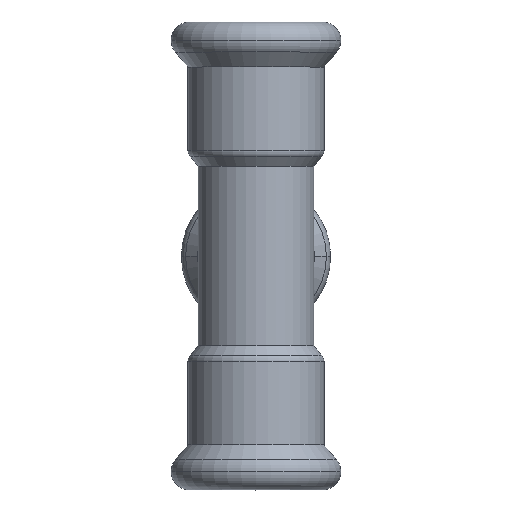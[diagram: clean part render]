
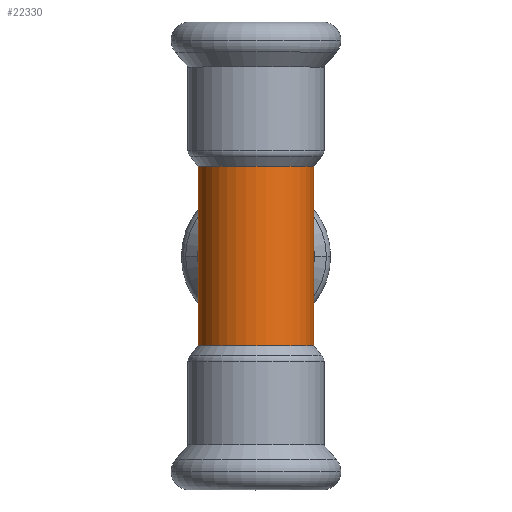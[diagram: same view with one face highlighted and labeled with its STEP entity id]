
A CAD part, top view. The second image highlights one B-rep face of the part: STEP entity #22330.
In plain terms, the highlighted cylindrical face has radius 9 mm (diameter 18 mm), a partial arc.
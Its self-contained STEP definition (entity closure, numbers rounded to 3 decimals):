
#670=CARTESIAN_POINT('',(-96.193,15.909,
14.));
#680=DIRECTION('',(0.,0.,1.));
#690=DIRECTION('',(-1.,0.,0.));
#700=AXIS2_PLACEMENT_3D('',#670,#680,#690);
#710=CYLINDRICAL_SURFACE('',#700,9.);
#16510=CARTESIAN_POINT('',(-87.193,15.909,
14.));
#16520=VERTEX_POINT('',#16510);
#16610=CARTESIAN_POINT('',(-105.193,15.909,
14.));
#16620=VERTEX_POINT('',#16610);
#16650=CARTESIAN_POINT('',(-96.193,15.909,
14.));
#16660=DIRECTION('',(0.,0.,1.));
#16670=DIRECTION('',(1.,0.,0.));
#16680=AXIS2_PLACEMENT_3D('',#16650,#16660,#16670);
#16690=CIRCLE('',#16680,9.);
#17170=CARTESIAN_POINT('',(-87.193,15.909,
14.));
#17180=DIRECTION('',(0.,0.,1.));
#17190=VECTOR('',#17180,1.);
#17200=LINE('',#17170,#17190);
#17210=CARTESIAN_POINT('',(-87.193,15.909,
-14.));
#17220=VERTEX_POINT('',#17210);
#17230=EDGE_CURVE('',#17220,#16520,#17200,.T.);
#17260=CARTESIAN_POINT('',(-105.193,15.909,
14.));
#17270=DIRECTION('',(0.,0.,1.));
#17280=VECTOR('',#17270,1.);
#17290=LINE('',#17260,#17280);
#17300=CARTESIAN_POINT('',(-105.193,15.909,
-14.));
#17310=VERTEX_POINT('',#17300);
#17320=EDGE_CURVE('',#17310,#16620,#17290,.T.);
#17340=CARTESIAN_POINT('',(-96.193,15.909,
-14.));
#17350=DIRECTION('',(0.,0.,1.));
#17360=DIRECTION('',(-1.,0.,0.));
#17370=AXIS2_PLACEMENT_3D('',#17340,#17350,#17360);
#17380=CIRCLE('',#17370,9.);
#21770=EDGE_CURVE('',#17310,#17220,#17380,.T.);
#22260=EDGE_CURVE('',#16620,#16520,#16690,.T.);
#22270=ORIENTED_EDGE('',*,*,#22260,.F.);
#22280=ORIENTED_EDGE('',*,*,#17230,.T.);
#22290=ORIENTED_EDGE('',*,*,#21770,.T.);
#22300=ORIENTED_EDGE('',*,*,#17320,.F.);
#22310=EDGE_LOOP('',(#22300,#22290,#22280,#22270));
#22320=FACE_OUTER_BOUND('',#22310,.T.);
#22330=ADVANCED_FACE('',(#22320),#710,.T.);
